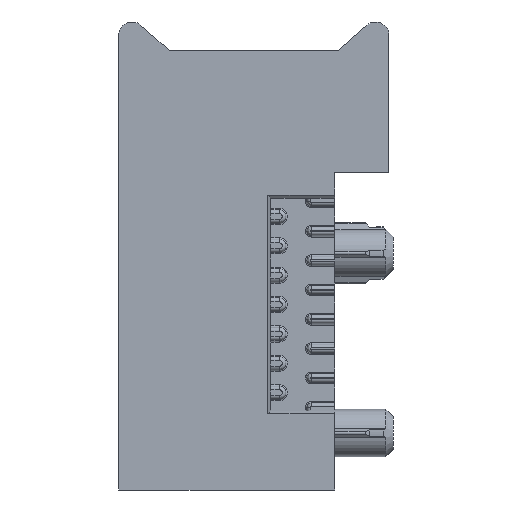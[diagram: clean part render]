
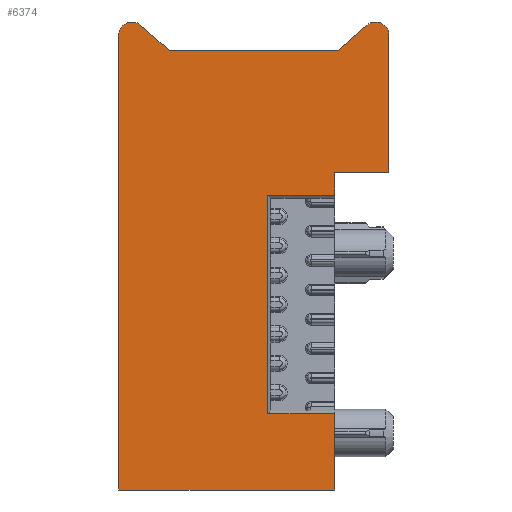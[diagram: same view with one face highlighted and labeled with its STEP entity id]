
A CAD part, left-side view. The second image highlights one B-rep face of the part: STEP entity #6374.
In plain terms, the highlighted planar face has unit normal (-1, 0, 0).
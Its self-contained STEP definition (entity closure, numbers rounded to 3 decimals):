
#72=DIRECTION('',(0.,-1.,0.));
#73=VECTOR('',#72,4.55);
#74=CARTESIAN_POINT('',(-5.35,-1.45,-9.87));
#75=LINE('',#74,#73);
#76=DIRECTION('',(0.,0.,1.));
#77=VECTOR('',#76,14.9);
#78=CARTESIAN_POINT('',(-5.35,-1.45,-24.77));
#79=LINE('',#78,#77);
#80=DIRECTION('',(0.,1.,0.));
#81=VECTOR('',#80,4.55);
#82=CARTESIAN_POINT('',(-5.35,-6.,-24.77));
#83=LINE('',#82,#81);
#84=DIRECTION('',(0.,0.,-1.));
#85=VECTOR('',#84,5.18);
#86=CARTESIAN_POINT('',(-5.35,-6.,-24.77));
#87=LINE('',#86,#85);
#88=DIRECTION('',(0.,1.,0.));
#89=VECTOR('',#88,14.7);
#90=CARTESIAN_POINT('',(-5.35,-6.,-29.95));
#91=LINE('',#90,#89);
#92=DIRECTION('',(0.,0.,1.));
#93=VECTOR('',#92,29.95);
#94=CARTESIAN_POINT('',(-5.35,8.7,-29.95));
#95=LINE('',#94,#93);
#96=DIRECTION('',(0.,0.,1.));
#97=VECTOR('',#96,1.03);
#98=CARTESIAN_POINT('',(-5.35,8.7,0.));
#99=LINE('',#98,#97);
#100=CARTESIAN_POINT('',(-5.35,7.8,1.03));
#101=DIRECTION('',(1.,0.,0.));
#102=DIRECTION('',(0.,1.,0.));
#103=AXIS2_PLACEMENT_3D('',#100,#101,#102);
#105=DIRECTION('',(0.,-0.751,-0.66));
#106=VECTOR('',#105,2.585);
#107=CARTESIAN_POINT('',(-5.35,7.206,1.706));
#108=LINE('',#107,#106);
#109=DIRECTION('',(0.,-1.,0.));
#110=VECTOR('',#109,11.528);
#111=CARTESIAN_POINT('',(-5.35,5.264,0.));
#112=LINE('',#111,#110);
#113=DIRECTION('',(0.,-0.751,0.66));
#114=VECTOR('',#113,2.585);
#115=CARTESIAN_POINT('',(-5.35,-6.264,0.));
#116=LINE('',#115,#114);
#117=CARTESIAN_POINT('',(-5.35,-8.8,1.03));
#118=DIRECTION('',(1.,0.,0.));
#119=DIRECTION('',(0.,0.66,0.751));
#120=AXIS2_PLACEMENT_3D('',#117,#118,#119);
#122=DIRECTION('',(0.,0.,-1.));
#123=VECTOR('',#122,9.35);
#124=CARTESIAN_POINT('',(-5.35,-9.7,1.03));
#125=LINE('',#124,#123);
#126=DIRECTION('',(0.,1.,0.));
#127=VECTOR('',#126,3.7);
#128=CARTESIAN_POINT('',(-5.35,-9.7,-8.32));
#129=LINE('',#128,#127);
#130=DIRECTION('',(0.,0.,-1.));
#131=VECTOR('',#130,1.55);
#132=CARTESIAN_POINT('',(-5.35,-6.,-8.32));
#133=LINE('',#132,#131);
#5021=CARTESIAN_POINT('',(-5.35,5.264,0.));
#5022=CARTESIAN_POINT('',(-5.35,-6.264,0.));
#5023=VERTEX_POINT('',#5021);
#5024=VERTEX_POINT('',#5022);
#5025=CARTESIAN_POINT('',(-5.35,-8.206,1.706));
#5026=VERTEX_POINT('',#5025);
#5027=CARTESIAN_POINT('',(-5.35,-9.7,1.03));
#5028=VERTEX_POINT('',#5027);
#5029=CARTESIAN_POINT('',(-5.35,-9.7,-8.32));
#5030=VERTEX_POINT('',#5029);
#5031=CARTESIAN_POINT('',(-5.35,-6.,-8.32));
#5032=VERTEX_POINT('',#5031);
#5033=CARTESIAN_POINT('',(-5.35,-6.,-29.95));
#5034=CARTESIAN_POINT('',(-5.35,8.7,-29.95));
#5035=VERTEX_POINT('',#5033);
#5036=VERTEX_POINT('',#5034);
#5037=CARTESIAN_POINT('',(-5.35,8.7,0.));
#5038=VERTEX_POINT('',#5037);
#5039=CARTESIAN_POINT('',(-5.35,8.7,1.03));
#5040=VERTEX_POINT('',#5039);
#5041=CARTESIAN_POINT('',(-5.35,7.206,1.706));
#5042=VERTEX_POINT('',#5041);
#6230=CARTESIAN_POINT('',(-5.35,-6.,-9.87));
#6232=VERTEX_POINT('',#6230);
#6238=CARTESIAN_POINT('',(-5.35,-1.45,-9.87));
#6239=VERTEX_POINT('',#6238);
#6242=CARTESIAN_POINT('',(-5.35,-1.45,-24.77));
#6243=VERTEX_POINT('',#6242);
#6245=CARTESIAN_POINT('',(-5.35,-6.,-24.77));
#6247=VERTEX_POINT('',#6245);
#6337=CARTESIAN_POINT('',(-5.35,0.,0.));
#6338=DIRECTION('',(1.,0.,0.));
#6339=DIRECTION('',(0.,0.,-1.));
#6340=AXIS2_PLACEMENT_3D('',#6337,#6338,#6339);
#6341=PLANE('',#6340);
#6343=ORIENTED_EDGE('',*,*,#6342,.F.);
#6345=ORIENTED_EDGE('',*,*,#6344,.F.);
#6347=ORIENTED_EDGE('',*,*,#6346,.F.);
#6349=ORIENTED_EDGE('',*,*,#6348,.T.);
#6351=ORIENTED_EDGE('',*,*,#6350,.T.);
#6353=ORIENTED_EDGE('',*,*,#6352,.T.);
#6355=ORIENTED_EDGE('',*,*,#6354,.T.);
#6357=ORIENTED_EDGE('',*,*,#6356,.T.);
#6359=ORIENTED_EDGE('',*,*,#6358,.T.);
#6361=ORIENTED_EDGE('',*,*,#6360,.T.);
#6363=ORIENTED_EDGE('',*,*,#6362,.T.);
#6365=ORIENTED_EDGE('',*,*,#6364,.T.);
#6367=ORIENTED_EDGE('',*,*,#6366,.T.);
#6369=ORIENTED_EDGE('',*,*,#6368,.T.);
#6371=ORIENTED_EDGE('',*,*,#6370,.T.);
#6372=EDGE_LOOP('',(#6343,#6345,#6347,#6349,#6351,#6353,#6355,#6357,#6359,#6361,
#6363,#6365,#6367,#6369,#6371));
#6373=FACE_OUTER_BOUND('',#6372,.F.);
#6374=ADVANCED_FACE('',(#6373),#6341,.F.);
#104=CIRCLE('',#103,0.9);
#121=CIRCLE('',#120,0.9);
#6342=EDGE_CURVE('',#6239,#6232,#75,.T.);
#6344=EDGE_CURVE('',#6243,#6239,#79,.T.);
#6346=EDGE_CURVE('',#6247,#6243,#83,.T.);
#6348=EDGE_CURVE('',#6247,#5035,#87,.T.);
#6350=EDGE_CURVE('',#5035,#5036,#91,.T.);
#6352=EDGE_CURVE('',#5036,#5038,#95,.T.);
#6354=EDGE_CURVE('',#5038,#5040,#99,.T.);
#6356=EDGE_CURVE('',#5040,#5042,#104,.T.);
#6358=EDGE_CURVE('',#5042,#5023,#108,.T.);
#6360=EDGE_CURVE('',#5023,#5024,#112,.T.);
#6362=EDGE_CURVE('',#5024,#5026,#116,.T.);
#6364=EDGE_CURVE('',#5026,#5028,#121,.T.);
#6366=EDGE_CURVE('',#5028,#5030,#125,.T.);
#6368=EDGE_CURVE('',#5030,#5032,#129,.T.);
#6370=EDGE_CURVE('',#5032,#6232,#133,.T.);
